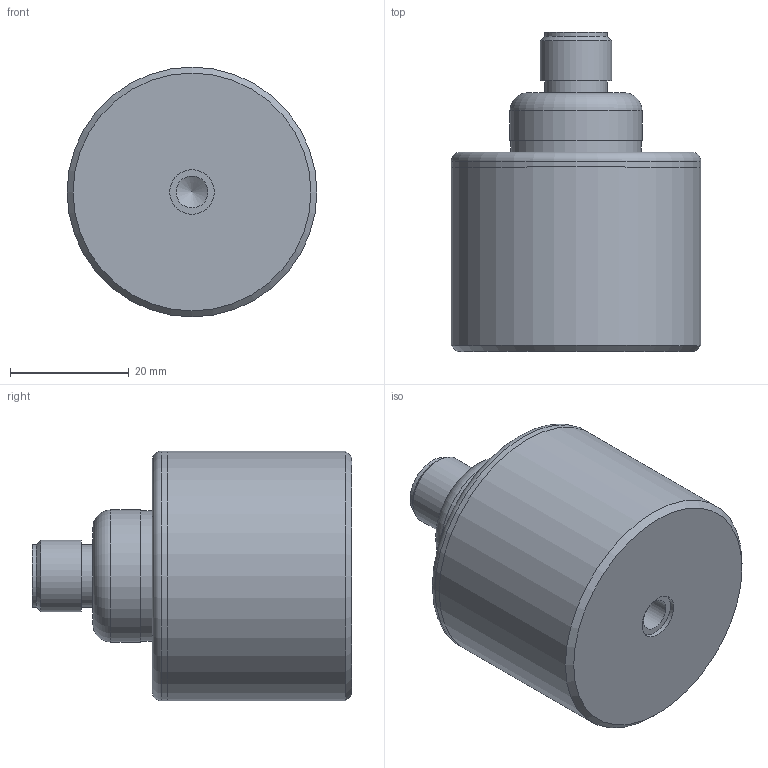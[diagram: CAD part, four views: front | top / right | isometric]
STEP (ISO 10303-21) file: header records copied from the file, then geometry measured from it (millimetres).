
FILE_DESCRIPTION(/* description */ (''),/* implementation_level */ '2;1');
FILE_NAME(/* name */ 'Z:\Engineering\Drawings\3D Library\Assemblies\Website\HS-173RXXX5401.stp',/* time_stamp */ '2023-03-25T13:47:08+00:00',/* author */ ('Ricardo.Peneda'),/* organization */ (''),/* preprocessor_version */ 'ST-DEVELOPER v18.1',/* originating_system */ 'Autodesk Inventor 2021',/* authorisation */ '');
FILE_SCHEMA (('AUTOMOTIVE_DESIGN { 1 0 10303 214 3 1 1 }'));
Length unit declared in the file: inch
Products named in the file (1): HS-173RXXX5401_Shrinkwrap_1
Bounding box: 42 x 53.69 x 42 mm (x, y, z)
Volume: 49325.6 mm3; surface area: 12089.6 mm2
Topology: 3 solids, 3 shells, 40 faces, 98 edges, 73 vertices
Faces by surface type: cylinder 16, plane 15, cone 5, torus 2, sphere 2
Full cylindrical faces by diameter (mm): 5.359 x1, 7.5 x1, 9.4 x2, 10.496 x1, 10.5 x1, 12 x1, 18 x1, 19.95 x1, 20 x1, 22 x1, 22.2 x1, 40 x1, 42 x2
Entity records: 1335 total; most frequent: DIRECTION 252, CARTESIAN_POINT 210, ORIENTED_EDGE 192, AXIS2_PLACEMENT_3D 115, EDGE_CURVE 96, CIRCLE 74, VERTEX_POINT 73, EDGE_LOOP 53
